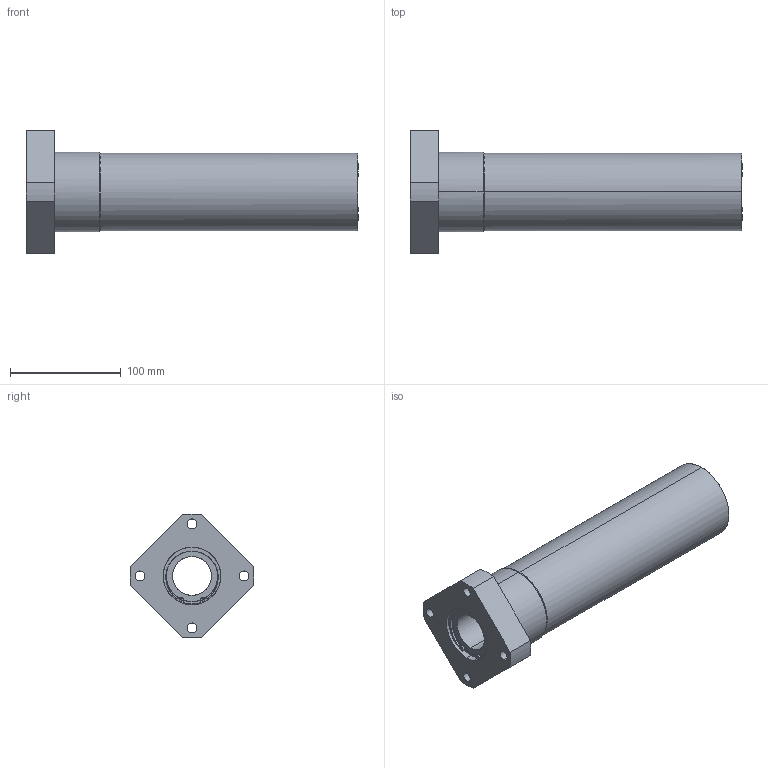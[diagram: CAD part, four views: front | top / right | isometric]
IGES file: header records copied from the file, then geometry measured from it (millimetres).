
Global section: file name: No Iges File Name specified; native system: AutoDesk Inventor R11.0; preprocessor: AutoDesk Inventor Iges Exporter R11.0; author: No Author specified; organization: No Organization specified; date: 20170922.135140; units: millimetre
Bounding box: 300 x 111.86 x 111.93 mm (x, y, z)
Surface area: 128915.1 mm2 (no closed solid volume)
Topology: 0 solids, 0 shells, 130 faces, 944 edges, 944 vertices
Faces by surface type: bspline 130
